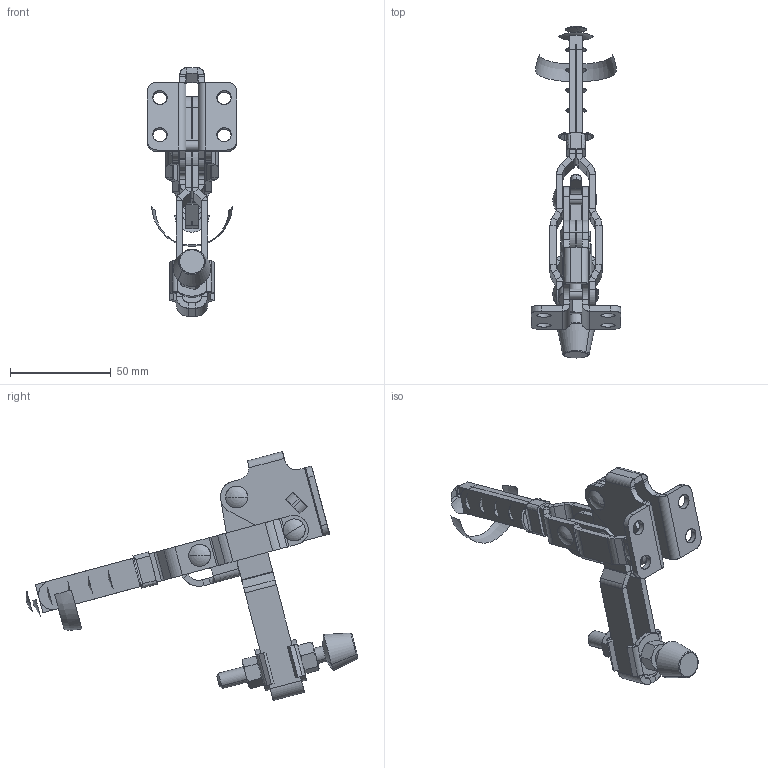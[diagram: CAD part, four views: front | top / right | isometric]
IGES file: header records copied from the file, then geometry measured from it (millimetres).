
Start section: SolidWorks IGES file using analytic representation for surfaces
Global section: file name: \\KOUGU-SV1\Public\Solidworks\工具事業部\坂入用\受け渡し\2023.2.17\ISK-HV4500 .IGS; native system: SolidWorks 2020; preprocessor: SolidWorks 2020; author: design_room 03; date: 230217.140957; units: millimetre
Bounding box: 44.6 x 164.49 x 123.32 mm (x, y, z)
Surface area: 43848.3 mm2 (no closed solid volume)
Topology: 0 solids, 0 shells, 534 faces, 5808 edges, 5801 vertices
Faces by surface type: bspline 308, revolution 226
